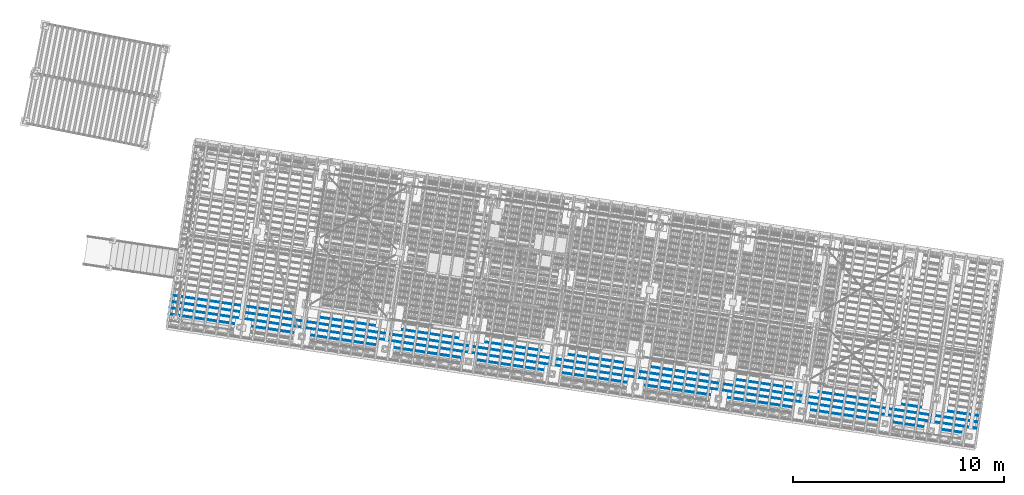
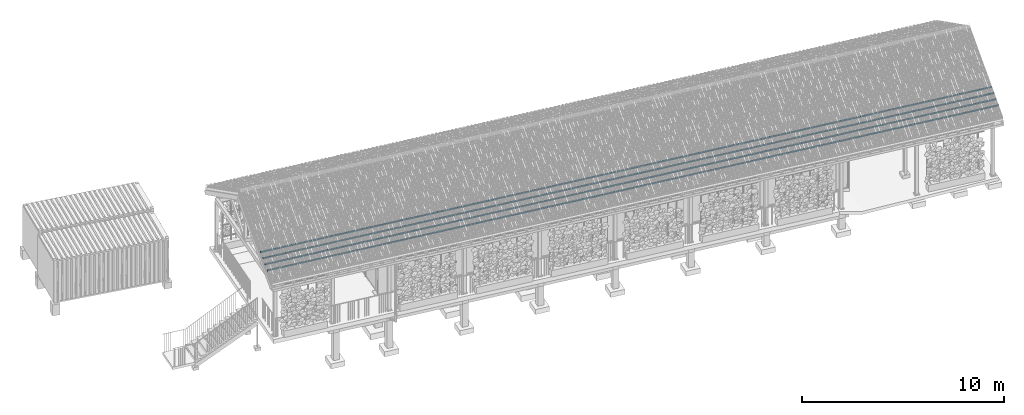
# One storey, part 68 of 131: 4 members, 1 element without a shape of its own.
"""IFC4 building model written with IfcOpenShell, lengths in metres."""

from ifc_helpers import new_model, si_unit, direction, frame, origin_with_axes, place, context, subcontext, project, spatial, rectangle, extrude, material, material_profile, profile_set, profile_usage, type_object, element, aggregate, save


model = new_model("IFC4")

# Units and contexts
model_context = context("Model", 3, precision=1e-05, world=origin_with_axes(), true_north=direction((0.0, 1.0)))
body_context = subcontext(model_context, "Body", "Model", "MODEL_VIEW")
ifc_project = project(units=[si_unit("AREAUNIT", "SQUARE_METRE"), si_unit("VOLUMEUNIT", "CUBIC_METRE"), si_unit("LENGTHUNIT", "METRE")], contexts=[model_context])

# Site, building, storey
site_placement = place(None, origin_with_axes())
site = spatial("IfcSite", under=ifc_project, at=site_placement, Name="Lares · Rua das Mercês · artigo 4771")
building_placement = place(site_placement, frame((15.0, 9.7, 14.65), z_axis=(0.0, 0.0, 1.0), x_axis=(0.989015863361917, -0.147809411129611, 0.0)))
building = spatial("IfcBuilding", under=site, at=building_placement, Name="Casa Sobreposta")
storey_placement = place(building_placement, origin_with_axes())
storey = spatial("IfcBuildingStorey", under=building, at=storey_placement, Name="00 · Habitação e estacionamento", Elevation=14.65)

# Roof, members
ifc_material = material(Name="Madeira / Bauholz", Category="wood")
roof_placement = place(storey_placement, origin_with_axes())
roof = element("IfcRoof", 1, at=roof_placement, inside=storey, material=ifc_material, Name="Cobertura de telha · duas águas 30 graus", PredefinedType="GABLE_ROOF")
ifc_material_profile = material_profile(ifc_material, rectangle(XDim=0.045, YDim=0.06))
ifc_profile_set = profile_set([ifc_material_profile], Name="TIMBER0.045x0.060")
ifc_profile_usage_1 = profile_usage(ifc_profile_set)
member_type = type_object("IfcMemberType", Name="TIMBER0.045x0.060 / timber", PredefinedType="NOTDEFINED", material=ifc_profile_set)
member_1_placement = place(roof_placement, frame((-6.4, -1.3, 3.88041016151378), z_axis=(1.0, 0.0, 0.0), x_axis=(0.0, -1.0, 0.0)))
member_1 = element("IfcMember", 2, at=member_1_placement, type_object=member_type, material=ifc_profile_usage_1, Name="Cobertura · ripa ventilada", context=body_context, shape_type="SweptSolid", body=[
    extrude(rectangle(XDim=0.045, YDim=0.06), origin_with_axes(), (0.0, 0.0, 1.0), 38.8),
])
ifc_profile_usage_2 = profile_usage(ifc_profile_set)
member_2_placement = place(roof_placement, frame((-6.4, -1.0, 4.05361524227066), z_axis=(1.0, 0.0, 0.0), x_axis=(0.0, -1.0, 0.0)))
member_2 = element("IfcMember", 3, at=member_2_placement, type_object=member_type, material=ifc_profile_usage_2, Name="Cobertura · ripa ventilada", context=body_context, shape_type="SweptSolid", body=[
    extrude(rectangle(XDim=0.045, YDim=0.06), origin_with_axes(), (0.0, 0.0, 1.0), 38.8),
])
ifc_profile_usage_3 = profile_usage(ifc_profile_set)
member_3_placement = place(roof_placement, frame((-6.4, -0.7, 4.22682032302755), z_axis=(1.0, 0.0, 0.0), x_axis=(0.0, -1.0, 0.0)))
member_3 = element("IfcMember", 4, at=member_3_placement, type_object=member_type, material=ifc_profile_usage_3, Name="Cobertura · ripa ventilada", context=body_context, shape_type="SweptSolid", body=[
    extrude(rectangle(XDim=0.045, YDim=0.06), origin_with_axes(), (0.0, 0.0, 1.0), 38.8),
])
ifc_profile_usage_4 = profile_usage(ifc_profile_set)
member_4_placement = place(roof_placement, frame((-6.4, -0.4, 4.40002540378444), z_axis=(1.0, 0.0, 0.0), x_axis=(0.0, -1.0, 0.0)))
member_4 = element("IfcMember", 5, at=member_4_placement, type_object=member_type, material=ifc_profile_usage_4, Name="Cobertura · ripa ventilada", context=body_context, shape_type="SweptSolid", body=[
    extrude(rectangle(XDim=0.045, YDim=0.06), origin_with_axes(), (0.0, 0.0, 1.0), 38.8),
])
aggregate(roof, [member_1, member_2, member_3, member_4])

save(model, "model.ifc")
